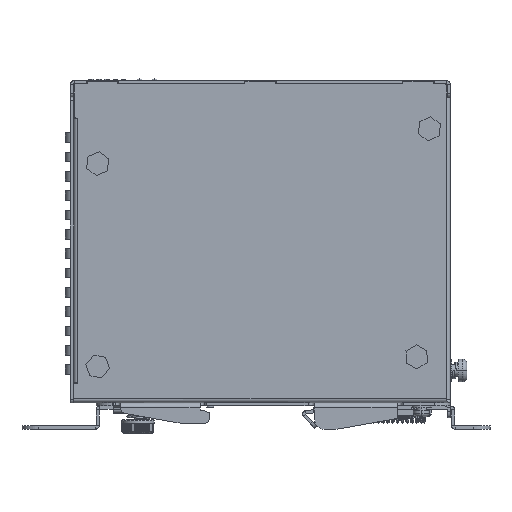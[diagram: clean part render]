
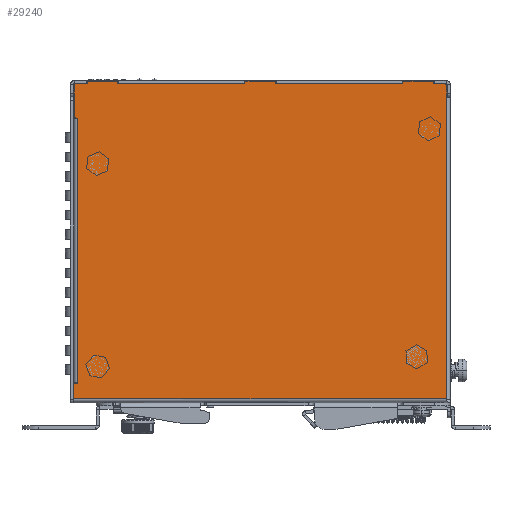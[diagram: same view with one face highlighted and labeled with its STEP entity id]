
A CAD part, left-side view. The second image highlights one B-rep face of the part: STEP entity #29240.
In plain terms, the highlighted planar face has unit normal (-1, 0, 0).
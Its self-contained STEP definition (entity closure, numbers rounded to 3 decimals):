
#21237=DIRECTION('',(0.,-1.,0.));
#21238=VECTOR('',#21237,39.4);
#21239=CARTESIAN_POINT('',(-1.,-4.8,0.));
#21240=LINE('',#21239,#21238);
#21241=DIRECTION('',(0.,0.,-1.));
#21242=VECTOR('',#21241,0.8);
#21243=CARTESIAN_POINT('',(-1.,-44.2,0.8));
#21244=LINE('',#21243,#21242);
#21245=DIRECTION('',(0.,1.,0.));
#21246=VECTOR('',#21245,9.6);
#21247=CARTESIAN_POINT('',(-1.,-53.8,0.8));
#21248=LINE('',#21247,#21246);
#21249=DIRECTION('',(0.,0.,1.));
#21250=VECTOR('',#21249,0.8);
#21251=CARTESIAN_POINT('',(-1.,-53.8,0.));
#21252=LINE('',#21251,#21250);
#21253=DIRECTION('',(0.,-1.,0.));
#21254=VECTOR('',#21253,3.5);
#21255=CARTESIAN_POINT('',(-1.,-53.8,0.));
#21256=LINE('',#21255,#21254);
#21257=CARTESIAN_POINT('',(-1.,-57.3,-0.5));
#21258=DIRECTION('',(-1.,0.,0.));
#21259=DIRECTION('',(0.,-1.,0.));
#21260=AXIS2_PLACEMENT_3D('',#21257,#21258,#21259);
#21262=DIRECTION('',(0.,0.,-1.));
#21263=VECTOR('',#21262,3.7);
#21264=CARTESIAN_POINT('',(-1.,-57.8,-0.5));
#21265=LINE('',#21264,#21263);
#21266=CARTESIAN_POINT('',(-1.,57.5,-93.4));
#21267=DIRECTION('',(-1.,0.,0.));
#21268=DIRECTION('',(0.,0.,1.));
#21269=AXIS2_PLACEMENT_3D('',#21266,#21267,#21268);
#21271=DIRECTION('',(0.,-1.,0.));
#21272=VECTOR('',#21271,0.65);
#21273=CARTESIAN_POINT('',(-1.,57.5,-92.9));
#21274=LINE('',#21273,#21272);
#21275=CARTESIAN_POINT('',(-1.,56.85,-92.85));
#21276=DIRECTION('',(-1.,0.,0.));
#21277=DIRECTION('',(0.,0.,-1.));
#21278=AXIS2_PLACEMENT_3D('',#21275,#21276,#21277);
#21280=DIRECTION('',(0.,0.,-1.));
#21281=VECTOR('',#21280,0.05);
#21282=CARTESIAN_POINT('',(-1.,56.8,-92.8));
#21283=LINE('',#21282,#21281);
#21284=DIRECTION('',(0.,0.,-1.));
#21285=VECTOR('',#21284,0.05);
#21286=CARTESIAN_POINT('',(-1.,56.8,-10.65));
#21287=LINE('',#21286,#21285);
#21288=CARTESIAN_POINT('',(-1.,56.85,-10.65));
#21289=DIRECTION('',(1.,0.,0.));
#21290=DIRECTION('',(0.,0.,1.));
#21291=AXIS2_PLACEMENT_3D('',#21288,#21289,#21290);
#21293=DIRECTION('',(0.,-1.,0.));
#21294=VECTOR('',#21293,0.45);
#21295=CARTESIAN_POINT('',(-1.,57.3,-10.6));
#21296=LINE('',#21295,#21294);
#21297=CARTESIAN_POINT('',(-1.,57.3,-10.1));
#21298=DIRECTION('',(-1.,0.,0.));
#21299=DIRECTION('',(0.,1.,0.));
#21300=AXIS2_PLACEMENT_3D('',#21297,#21298,#21299);
#21302=DIRECTION('',(0.,0.,1.));
#21303=VECTOR('',#21302,5.9);
#21304=CARTESIAN_POINT('',(-1.,57.8,-10.1));
#21305=LINE('',#21304,#21303);
#21306=DIRECTION('',(0.,0.,1.));
#21307=VECTOR('',#21306,3.7);
#21308=CARTESIAN_POINT('',(-1.,57.8,-4.2));
#21309=LINE('',#21308,#21307);
#21310=CARTESIAN_POINT('',(-1.,57.3,-0.5));
#21311=DIRECTION('',(-1.,0.,0.));
#21312=DIRECTION('',(0.,0.,1.));
#21313=AXIS2_PLACEMENT_3D('',#21310,#21311,#21312);
#21315=DIRECTION('',(0.,-1.,0.));
#21316=VECTOR('',#21315,3.5);
#21317=CARTESIAN_POINT('',(-1.,57.3,0.));
#21318=LINE('',#21317,#21316);
#21319=DIRECTION('',(0.,0.,-1.));
#21320=VECTOR('',#21319,0.8);
#21321=CARTESIAN_POINT('',(-1.,53.8,0.8));
#21322=LINE('',#21321,#21320);
#21323=DIRECTION('',(0.,1.,0.));
#21324=VECTOR('',#21323,9.6);
#21325=CARTESIAN_POINT('',(-1.,44.2,0.8));
#21326=LINE('',#21325,#21324);
#21327=DIRECTION('',(0.,0.,1.));
#21328=VECTOR('',#21327,0.8);
#21329=CARTESIAN_POINT('',(-1.,44.2,0.));
#21330=LINE('',#21329,#21328);
#21331=DIRECTION('',(0.,-1.,0.));
#21332=VECTOR('',#21331,39.4);
#21333=CARTESIAN_POINT('',(-1.,44.2,0.));
#21334=LINE('',#21333,#21332);
#21335=DIRECTION('',(0.,0.,-1.));
#21336=VECTOR('',#21335,0.8);
#21337=CARTESIAN_POINT('',(-1.,4.8,0.8));
#21338=LINE('',#21337,#21336);
#21339=DIRECTION('',(0.,1.,0.));
#21340=VECTOR('',#21339,9.6);
#21341=CARTESIAN_POINT('',(-1.,-4.8,0.8));
#21342=LINE('',#21341,#21340);
#21343=DIRECTION('',(0.,0.,1.));
#21344=VECTOR('',#21343,0.8);
#21345=CARTESIAN_POINT('',(-1.,-4.8,0.));
#21346=LINE('',#21345,#21344);
#21411=DIRECTION('',(0.,0.,1.));
#21412=VECTOR('',#21411,82.1);
#21413=CARTESIAN_POINT('',(-1.,56.8,-92.8));
#21414=LINE('',#21413,#21412);
#21469=DIRECTION('',(0.,0.,-1.));
#21470=VECTOR('',#21469,4.4);
#21471=CARTESIAN_POINT('',(-1.,58.,-93.4));
#21472=LINE('',#21471,#21470);
#21507=DIRECTION('',(0.,1.,0.));
#21508=VECTOR('',#21507,115.8);
#21509=CARTESIAN_POINT('',(-1.,-57.8,-97.8));
#21510=LINE('',#21509,#21508);
#25290=DIRECTION('',(0.,0.,-1.));
#25291=VECTOR('',#25290,93.6);
#25292=CARTESIAN_POINT('',(-1.,-57.8,-4.2));
#25293=LINE('',#25292,#25291);
#27223=CARTESIAN_POINT('',(-1.,58.,-97.8));
#27225=VERTEX_POINT('',#27223);
#27226=CARTESIAN_POINT('',(-1.,-57.8,-97.8));
#27227=VERTEX_POINT('',#27226);
#27240=CARTESIAN_POINT('',(-1.,-57.8,-4.2));
#27241=VERTEX_POINT('',#27240);
#27270=CARTESIAN_POINT('',(-1.,57.3,0.));
#27272=VERTEX_POINT('',#27270);
#27278=CARTESIAN_POINT('',(-1.,-57.8,-0.5));
#27279=VERTEX_POINT('',#27278);
#27280=CARTESIAN_POINT('',(-1.,-57.3,0.));
#27281=VERTEX_POINT('',#27280);
#27566=CARTESIAN_POINT('',(-1.,56.85,-10.6));
#27568=VERTEX_POINT('',#27566);
#27572=CARTESIAN_POINT('',(-1.,56.8,-10.65));
#27573=VERTEX_POINT('',#27572);
#27576=CARTESIAN_POINT('',(-1.,56.8,-10.7));
#27577=VERTEX_POINT('',#27576);
#27581=CARTESIAN_POINT('',(-1.,56.85,-92.9));
#27583=VERTEX_POINT('',#27581);
#27584=CARTESIAN_POINT('',(-1.,56.8,-92.8));
#27585=VERTEX_POINT('',#27584);
#27590=CARTESIAN_POINT('',(-1.,56.8,-92.85));
#27591=VERTEX_POINT('',#27590);
#27598=CARTESIAN_POINT('',(-1.,57.8,-4.2));
#27599=CARTESIAN_POINT('',(-1.,57.8,-0.5));
#27600=VERTEX_POINT('',#27598);
#27601=VERTEX_POINT('',#27599);
#27606=CARTESIAN_POINT('',(-1.,57.8,-10.1));
#27607=VERTEX_POINT('',#27606);
#27608=CARTESIAN_POINT('',(-1.,57.3,-10.6));
#27609=VERTEX_POINT('',#27608);
#27614=CARTESIAN_POINT('',(-1.,57.5,-92.9));
#27615=VERTEX_POINT('',#27614);
#27616=CARTESIAN_POINT('',(-1.,58.,-93.4));
#27617=VERTEX_POINT('',#27616);
#29043=CARTESIAN_POINT('',(-1.,44.2,0.));
#29044=CARTESIAN_POINT('',(-1.,44.2,0.8));
#29045=VERTEX_POINT('',#29043);
#29046=VERTEX_POINT('',#29044);
#29047=CARTESIAN_POINT('',(-1.,53.8,0.8));
#29048=VERTEX_POINT('',#29047);
#29049=CARTESIAN_POINT('',(-1.,53.8,0.));
#29050=VERTEX_POINT('',#29049);
#29059=CARTESIAN_POINT('',(-1.,-4.8,0.));
#29060=CARTESIAN_POINT('',(-1.,-4.8,0.8));
#29061=VERTEX_POINT('',#29059);
#29062=VERTEX_POINT('',#29060);
#29063=CARTESIAN_POINT('',(-1.,4.8,0.8));
#29064=VERTEX_POINT('',#29063);
#29065=CARTESIAN_POINT('',(-1.,4.8,0.));
#29066=VERTEX_POINT('',#29065);
#29075=CARTESIAN_POINT('',(-1.,-53.8,0.));
#29076=CARTESIAN_POINT('',(-1.,-53.8,0.8));
#29077=VERTEX_POINT('',#29075);
#29078=VERTEX_POINT('',#29076);
#29079=CARTESIAN_POINT('',(-1.,-44.2,0.8));
#29080=VERTEX_POINT('',#29079);
#29081=CARTESIAN_POINT('',(-1.,-44.2,0.));
#29082=VERTEX_POINT('',#29081);
#29174=CARTESIAN_POINT('',(-1.,0.,0.));
#29175=DIRECTION('',(1.,0.,0.));
#29176=DIRECTION('',(0.,-1.,0.));
#29177=AXIS2_PLACEMENT_3D('',#29174,#29175,#29176);
#29178=PLANE('',#29177);
#29180=ORIENTED_EDGE('',*,*,#29179,.T.);
#29182=ORIENTED_EDGE('',*,*,#29181,.F.);
#29184=ORIENTED_EDGE('',*,*,#29183,.F.);
#29186=ORIENTED_EDGE('',*,*,#29185,.F.);
#29187=ORIENTED_EDGE('',*,*,#29164,.T.);
#29189=ORIENTED_EDGE('',*,*,#29188,.F.);
#29191=ORIENTED_EDGE('',*,*,#29190,.T.);
#29193=ORIENTED_EDGE('',*,*,#29192,.T.);
#29195=ORIENTED_EDGE('',*,*,#29194,.T.);
#29197=ORIENTED_EDGE('',*,*,#29196,.F.);
#29199=ORIENTED_EDGE('',*,*,#29198,.F.);
#29201=ORIENTED_EDGE('',*,*,#29200,.T.);
#29203=ORIENTED_EDGE('',*,*,#29202,.T.);
#29205=ORIENTED_EDGE('',*,*,#29204,.F.);
#29207=ORIENTED_EDGE('',*,*,#29206,.T.);
#29209=ORIENTED_EDGE('',*,*,#29208,.F.);
#29211=ORIENTED_EDGE('',*,*,#29210,.F.);
#29213=ORIENTED_EDGE('',*,*,#29212,.F.);
#29215=ORIENTED_EDGE('',*,*,#29214,.F.);
#29217=ORIENTED_EDGE('',*,*,#29216,.T.);
#29219=ORIENTED_EDGE('',*,*,#29218,.T.);
#29221=ORIENTED_EDGE('',*,*,#29220,.F.);
#29223=ORIENTED_EDGE('',*,*,#29222,.T.);
#29225=ORIENTED_EDGE('',*,*,#29224,.F.);
#29227=ORIENTED_EDGE('',*,*,#29226,.F.);
#29229=ORIENTED_EDGE('',*,*,#29228,.F.);
#29231=ORIENTED_EDGE('',*,*,#29230,.T.);
#29233=ORIENTED_EDGE('',*,*,#29232,.F.);
#29235=ORIENTED_EDGE('',*,*,#29234,.F.);
#29237=ORIENTED_EDGE('',*,*,#29236,.F.);
#29238=EDGE_LOOP('',(#29180,#29182,#29184,#29186,#29187,#29189,#29191,#29193,
#29195,#29197,#29199,#29201,#29203,#29205,#29207,#29209,#29211,#29213,#29215,
#29217,#29219,#29221,#29223,#29225,#29227,#29229,#29231,#29233,#29235,#29237));
#29239=FACE_OUTER_BOUND('',#29238,.F.);
#21261=CIRCLE('',#21260,0.5);
#21270=CIRCLE('',#21269,0.5);
#21279=CIRCLE('',#21278,0.05);
#21292=CIRCLE('',#21291,0.05);
#21301=CIRCLE('',#21300,0.5);
#21314=CIRCLE('',#21313,0.5);
#29164=EDGE_CURVE('',#29077,#27281,#21256,.T.);
#29179=EDGE_CURVE('',#29061,#29082,#21240,.T.);
#29181=EDGE_CURVE('',#29080,#29082,#21244,.T.);
#29183=EDGE_CURVE('',#29078,#29080,#21248,.T.);
#29185=EDGE_CURVE('',#29077,#29078,#21252,.T.);
#29188=EDGE_CURVE('',#27279,#27281,#21261,.T.);
#29190=EDGE_CURVE('',#27279,#27241,#21265,.T.);
#29192=EDGE_CURVE('',#27241,#27227,#25293,.T.);
#29194=EDGE_CURVE('',#27227,#27225,#21510,.T.);
#29196=EDGE_CURVE('',#27617,#27225,#21472,.T.);
#29198=EDGE_CURVE('',#27615,#27617,#21270,.T.);
#29200=EDGE_CURVE('',#27615,#27583,#21274,.T.);
#29202=EDGE_CURVE('',#27583,#27591,#21279,.T.);
#29204=EDGE_CURVE('',#27585,#27591,#21283,.T.);
#29206=EDGE_CURVE('',#27585,#27577,#21414,.T.);
#29208=EDGE_CURVE('',#27573,#27577,#21287,.T.);
#29210=EDGE_CURVE('',#27568,#27573,#21292,.T.);
#29212=EDGE_CURVE('',#27609,#27568,#21296,.T.);
#29214=EDGE_CURVE('',#27607,#27609,#21301,.T.);
#29216=EDGE_CURVE('',#27607,#27600,#21305,.T.);
#29218=EDGE_CURVE('',#27600,#27601,#21309,.T.);
#29220=EDGE_CURVE('',#27272,#27601,#21314,.T.);
#29222=EDGE_CURVE('',#27272,#29050,#21318,.T.);
#29224=EDGE_CURVE('',#29048,#29050,#21322,.T.);
#29226=EDGE_CURVE('',#29046,#29048,#21326,.T.);
#29228=EDGE_CURVE('',#29045,#29046,#21330,.T.);
#29230=EDGE_CURVE('',#29045,#29066,#21334,.T.);
#29232=EDGE_CURVE('',#29064,#29066,#21338,.T.);
#29234=EDGE_CURVE('',#29062,#29064,#21342,.T.);
#29236=EDGE_CURVE('',#29061,#29062,#21346,.T.);
#29240=ADVANCED_FACE('',(#29239),#29178,.F.);
